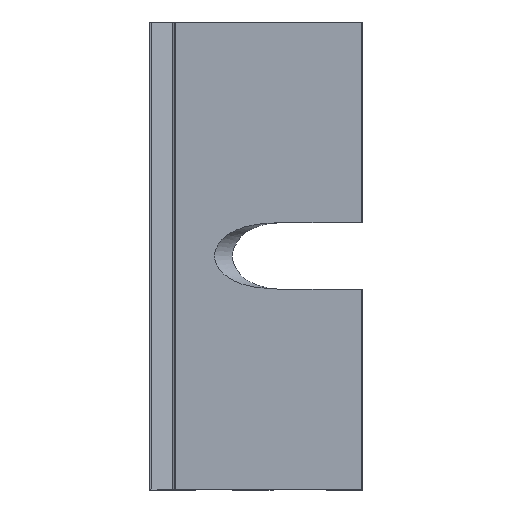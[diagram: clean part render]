
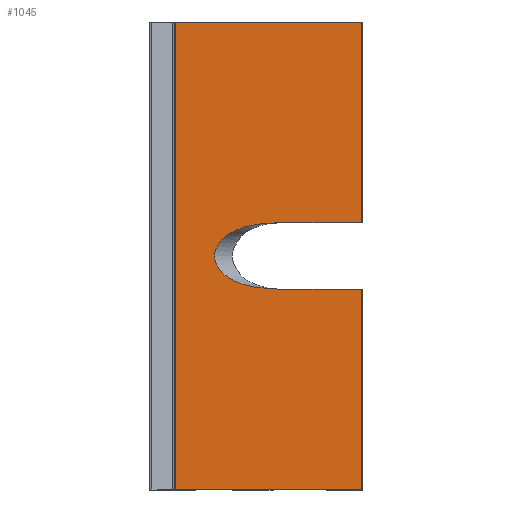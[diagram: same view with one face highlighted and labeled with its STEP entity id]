
A CAD part, front view. The second image highlights one B-rep face of the part: STEP entity #1045.
In plain terms, the highlighted planar face has unit normal (0, -1, 0).
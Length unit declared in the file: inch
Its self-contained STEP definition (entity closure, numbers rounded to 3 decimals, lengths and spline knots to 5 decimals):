
#40 = ORIENTED_EDGE ( 'NONE', *, *, #854, .T. ) ;
#86 = CARTESIAN_POINT ( 'NONE',  ( 1.87598, -0.55906, -0.80866 ) ) ;
#95 = VERTEX_POINT ( 'NONE', #1299 ) ;
#97 = CARTESIAN_POINT ( 'NONE',  ( 1.39516, -0.55906, -0.0308 ) ) ;
#103 = CARTESIAN_POINT ( 'NONE',  ( 1.52498, -0.55906, 0.10492 ) ) ;
#123 = DIRECTION ( 'NONE',  ( 0., 0., -1. ) ) ;
#127 = EDGE_CURVE ( 'NONE', #447, #95, #1120, .T. ) ;
#158 = CARTESIAN_POINT ( 'NONE',  ( 1.24551, -0.55906, -0.11024 ) ) ;
#162 = DIRECTION ( 'NONE',  ( 0., 0., -1. ) ) ;
#171 = ORIENTED_EDGE ( 'NONE', *, *, #1095, .T. ) ;
#213 = VECTOR ( 'NONE', #701, 39.37008 ) ;
#223 = EDGE_LOOP ( 'NONE', ( #601, #446, #40, #1084, #1705, #1971, #171, #1806 ) ) ;
#292 = CARTESIAN_POINT ( 'NONE',  ( 1.38699, -0.55906, 0.00211 ) ) ;
#301 = CARTESIAN_POINT ( 'NONE',  ( 1.573, -0.55906, 0.10987 ) ) ;
#433 = DIRECTION ( 'NONE',  ( 1., 0., 0. ) ) ;
#446 = ORIENTED_EDGE ( 'NONE', *, *, #1443, .T. ) ;
#447 = VERTEX_POINT ( 'NONE', #2421 ) ;
#469 = EDGE_CURVE ( 'NONE', #95, #1864, #617, .T. ) ;
#481 = CARTESIAN_POINT ( 'NONE',  ( 1.54212, -0.55906, -0.10728 ) ) ;
#495 = CARTESIAN_POINT ( 'NONE',  ( 1.39727, -0.55906, 0.03463 ) ) ;
#503 = CARTESIAN_POINT ( 'NONE',  ( 1.60433, -0.55906, 0.11024 ) ) ;
#558 = DIRECTION ( 'NONE',  ( -1., 0., 0. ) ) ;
#591 = CARTESIAN_POINT ( 'NONE',  ( 1.87598, -0.55906, -0.80866 ) ) ;
#601 = ORIENTED_EDGE ( 'NONE', *, *, #469, .T. ) ;
#617 = LINE ( 'NONE', #631, #1685 ) ;
#625 = VERTEX_POINT ( 'NONE', #1140 ) ;
#627 = LINE ( 'NONE', #591, #1648 ) ;
#631 = CARTESIAN_POINT ( 'NONE',  ( 1.24551, -0.55906, 0.11024 ) ) ;
#681 = CARTESIAN_POINT ( 'NONE',  ( 1.4903, -0.55906, -0.09727 ) ) ;
#693 = CARTESIAN_POINT ( 'NONE',  ( 1.41943, -0.55906, 0.06148 ) ) ;
#701 = DIRECTION ( 'NONE',  ( -1., 0., 0. ) ) ;
#742 = VECTOR ( 'NONE', #1298, 39.37008 ) ;
#854 = EDGE_CURVE ( 'NONE', #2075, #625, #2273, .T. ) ;
#884 = VECTOR ( 'NONE', #558, 39.37008 ) ;
#885 = CARTESIAN_POINT ( 'NONE',  ( 1.59557, -0.55906, -0.11024 ) ) ;
#890 = CARTESIAN_POINT ( 'NONE',  ( 1.45874, -0.55906, -0.08581 ) ) ;
#901 = CARTESIAN_POINT ( 'NONE',  ( 1.44704, -0.55906, 0.08004 ) ) ;
#903 = CARTESIAN_POINT ( 'NONE',  ( 1.25787, -0.55906, -0.77756 ) ) ;
#938 = EDGE_CURVE ( 'NONE', #625, #1209, #1243, .T. ) ;
#960 = CARTESIAN_POINT ( 'NONE',  ( 1.25787, -0.55906, -0.80866 ) ) ;
#1045 = ADVANCED_FACE ( 'NONE', ( #1715 ), #1109, .T. ) ;
#1084 = ORIENTED_EDGE ( 'NONE', *, *, #938, .T. ) ;
#1089 = CARTESIAN_POINT ( 'NONE',  ( 1.42964, -0.55906, -0.06946 ) ) ;
#1095 = EDGE_CURVE ( 'NONE', #1158, #447, #1976, .T. ) ;
#1101 = CARTESIAN_POINT ( 'NONE',  ( 1.47742, -0.55906, 0.09317 ) ) ;
#1109 = PLANE ( 'NONE',  #1536 ) ;
#1120 = B_SPLINE_CURVE_WITH_KNOTS ( 'NONE', 3,
 ( #2293, #885, #1703, #481, #1905, #681, #2097, #890, #2302, #1089, #2505, #1306, #97, #1506, #292, #1712, #495, #1911, #693, #2104, #901, #2309, #1101, #2511, #1316, #103, #1520, #301, #1721, #503 ),
 .UNSPECIFIED., .F., .F.,
 ( 4, 1, 1, 1, 1, 1, 1, 1, 1, 1, 1, 1, 1, 1, 1, 1, 1, 1, 1, 1, 1, 1, 1, 1, 1, 1, 1, 4 ),
 ( 0., 0.00084, 0.00168, 0.00252, 0.00294, 0.00336, 0.00378, 0.0042, 0.00462, 0.00504, 0.00545, 0.00587, 0.00629, 0.00671, 0.00713, 0.00755, 0.00797, 0.00839, 0.00881, 0.00923, 0.00965, 0.01007, 0.01049, 0.01091, 0.01133, 0.01175, 0.01259, 0.01343 ),
 .UNSPECIFIED. ) ;
#1140 = CARTESIAN_POINT ( 'NONE',  ( 1.25787, -0.55906, 0.77756 ) ) ;
#1158 = VERTEX_POINT ( 'NONE', #1980 ) ;
#1209 = VERTEX_POINT ( 'NONE', #903 ) ;
#1243 = LINE ( 'NONE', #960, #2254 ) ;
#1298 = DIRECTION ( 'NONE',  ( 0., 0., 1. ) ) ;
#1299 = CARTESIAN_POINT ( 'NONE',  ( 1.60433, -0.55906, 0.11024 ) ) ;
#1306 = CARTESIAN_POINT ( 'NONE',  ( 1.40468, -0.55906, -0.04576 ) ) ;
#1316 = CARTESIAN_POINT ( 'NONE',  ( 1.509, -0.55906, 0.10193 ) ) ;
#1336 = DIRECTION ( 'NONE',  ( 0., -1., 0. ) ) ;
#1443 = EDGE_CURVE ( 'NONE', #1864, #2075, #627, .T. ) ;
#1459 = VECTOR ( 'NONE', #2332, 39.37008 ) ;
#1506 = CARTESIAN_POINT ( 'NONE',  ( 1.38892, -0.55906, -0.01463 ) ) ;
#1512 = CARTESIAN_POINT ( 'NONE',  ( 1.87598, -0.55906, 0.77756 ) ) ;
#1520 = CARTESIAN_POINT ( 'NONE',  ( 1.54633, -0.55906, 0.10787 ) ) ;
#1536 = AXIS2_PLACEMENT_3D ( 'NONE', #2531, #1336, #123 ) ;
#1565 = CARTESIAN_POINT ( 'NONE',  ( 1.87598, -0.55906, 0.11024 ) ) ;
#1642 = VERTEX_POINT ( 'NONE', #2467 ) ;
#1648 = VECTOR ( 'NONE', #2209, 39.37008 ) ;
#1685 = VECTOR ( 'NONE', #433, 39.37008 ) ;
#1698 = EDGE_CURVE ( 'NONE', #1642, #1158, #1827, .T. ) ;
#1703 = CARTESIAN_POINT ( 'NONE',  ( 1.57583, -0.55906, -0.10985 ) ) ;
#1705 = ORIENTED_EDGE ( 'NONE', *, *, #2557, .T. ) ;
#1712 = CARTESIAN_POINT ( 'NONE',  ( 1.39015, -0.55906, 0.01875 ) ) ;
#1715 = FACE_OUTER_BOUND ( 'NONE', #223, .T. ) ;
#1721 = CARTESIAN_POINT ( 'NONE',  ( 1.59399, -0.55906, 0.11024 ) ) ;
#1806 = ORIENTED_EDGE ( 'NONE', *, *, #127, .T. ) ;
#1827 = LINE ( 'NONE', #86, #742 ) ;
#1864 = VERTEX_POINT ( 'NONE', #1565 ) ;
#1905 = CARTESIAN_POINT ( 'NONE',  ( 1.5129, -0.55906, -0.10276 ) ) ;
#1911 = CARTESIAN_POINT ( 'NONE',  ( 1.40739, -0.55906, 0.04912 ) ) ;
#1971 = ORIENTED_EDGE ( 'NONE', *, *, #1698, .T. ) ;
#1976 = LINE ( 'NONE', #158, #884 ) ;
#1980 = CARTESIAN_POINT ( 'NONE',  ( 1.87598, -0.55906, -0.11024 ) ) ;
#2075 = VERTEX_POINT ( 'NONE', #1512 ) ;
#2097 = CARTESIAN_POINT ( 'NONE',  ( 1.47415, -0.55906, -0.09211 ) ) ;
#2104 = CARTESIAN_POINT ( 'NONE',  ( 1.43274, -0.55906, 0.07161 ) ) ;
#2117 = CARTESIAN_POINT ( 'NONE',  ( 1.24551, -0.55906, 0.77756 ) ) ;
#2127 = CARTESIAN_POINT ( 'NONE',  ( 1.24551, -0.55906, -0.77756 ) ) ;
#2209 = DIRECTION ( 'NONE',  ( 0., 0., 1. ) ) ;
#2254 = VECTOR ( 'NONE', #162, 39.37008 ) ;
#2273 = LINE ( 'NONE', #2117, #213 ) ;
#2293 = CARTESIAN_POINT ( 'NONE',  ( 1.60433, -0.55906, -0.11024 ) ) ;
#2302 = CARTESIAN_POINT ( 'NONE',  ( 1.4439, -0.55906, -0.07833 ) ) ;
#2309 = CARTESIAN_POINT ( 'NONE',  ( 1.46199, -0.55906, 0.0872 ) ) ;
#2332 = DIRECTION ( 'NONE',  ( 1., 0., 0. ) ) ;
#2421 = CARTESIAN_POINT ( 'NONE',  ( 1.60433, -0.55906, -0.11024 ) ) ;
#2467 = CARTESIAN_POINT ( 'NONE',  ( 1.87598, -0.55906, -0.77756 ) ) ;
#2505 = CARTESIAN_POINT ( 'NONE',  ( 1.41646, -0.55906, -0.05878 ) ) ;
#2511 = CARTESIAN_POINT ( 'NONE',  ( 1.49312, -0.55906, 0.09805 ) ) ;
#2531 = CARTESIAN_POINT ( 'NONE',  ( 1.24551, -0.55906, -0.80866 ) ) ;
#2557 = EDGE_CURVE ( 'NONE', #1209, #1642, #2591, .T. ) ;
#2591 = LINE ( 'NONE', #2127, #1459 ) ;
